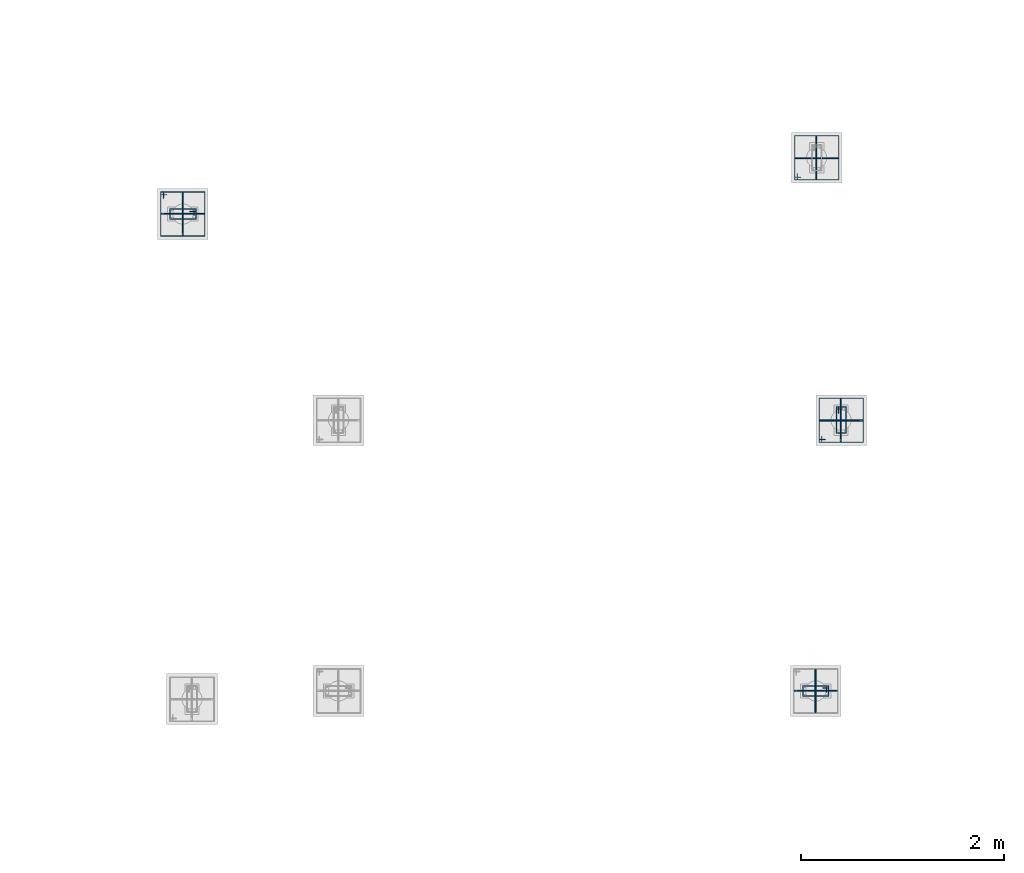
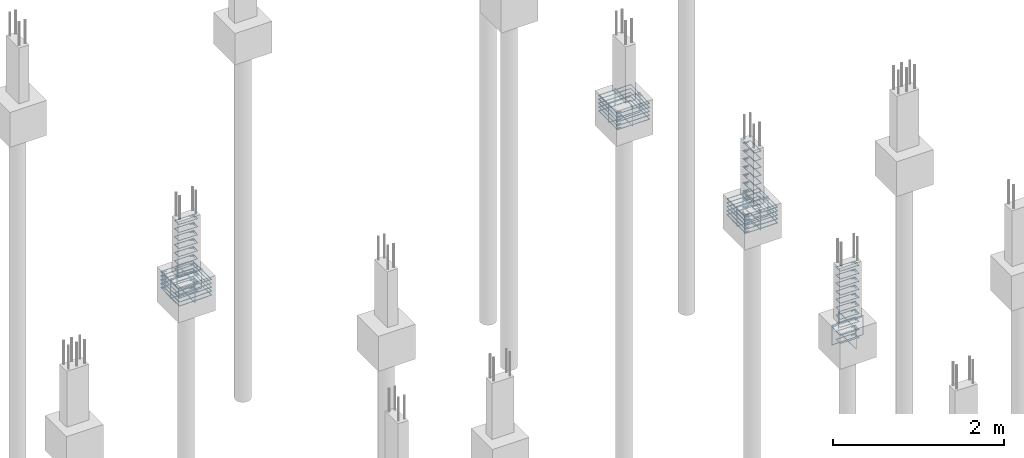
# One storey, part 110 of 119: 53 reinforcing bars.
"""IFC4 building model written with IfcOpenShell, lengths in centimetres."""

from ifc_helpers import new_model, entity, si_unit, derived_unit, frame, origin_with_axes, place, context, project, spatial, source, transform, mapped, element, save


model = new_model("IFC4")

# Units and contexts
model_context = context("Model", 3, precision=1e-05, world=origin_with_axes(), identifier="Body")
ifc_project = project(units=[si_unit("LENGTHUNIT", "METRE", prefix="CENTI"), si_unit("VOLUMEUNIT", "CUBIC_METRE"), si_unit("AREAUNIT", "SQUARE_METRE"), si_unit("POWERUNIT", "WATT"), si_unit("LUMINOUSFLUXUNIT", "LUMEN"), si_unit("ELECTRICCURRENTUNIT", "AMPERE"), si_unit("PRESSUREUNIT", "PASCAL", prefix="KILO"), si_unit("MASSUNIT", "GRAM", prefix="KILO"), si_unit("PLANEANGLEUNIT", "RADIAN"), derived_unit("VOLUMETRICFLOWRATEUNIT", [(si_unit("LENGTHUNIT", "METRE"), 3), (si_unit("TIMEUNIT", "SECOND"), -1)])], contexts=[model_context])

# Site, building, storey
site_placement = place(None, frame((-4000.0, 0.0, 0.0), z_axis=(0.0, 0.0, 1.0), x_axis=(1.0, 0.0, 0.0)))
site = spatial("IfcSite", under=ifc_project, at=site_placement, Name="PADRÃO")
building_placement = place(site_placement, frame((0.0, 0.0, -14.0)))
building = spatial("IfcBuilding", under=site, at=building_placement, Name="CRECHE PRÉ-ESCOLA TIPO 2")
storey_placement = place(building_placement, origin_with_axes())
storey = spatial("IfcBuildingStorey", under=building, at=storey_placement, Name="FUNDAÇÃO", CompositionType="ELEMENT", Elevation=-14.0)

# Reinforcing bars
shared_shape_1 = source(origin_with_axes(), model_context, "Body", "AdvancedSweptSolid", [
    entity("IfcSweptDiskSolid", entity("IfcCompositeCurve", [entity("IfcCompositeCurveSegment", "CONTINUOUS", True, entity("IfcPolyline", [entity("IfcCartesianPoint", [4.25, 21.75, 0.0]), entity("IfcCartesianPoint", [4.25, 27.75, 0.0])])), entity("IfcCompositeCurveSegment", "CONTINUOUS", True, entity("IfcPolyline", [entity("IfcCartesianPoint", [4.25, 27.75, 0.0]), entity("IfcCartesianPoint", [2.25, 27.75, 0.0])])), entity("IfcCompositeCurveSegment", "CONTINUOUS", True, entity("IfcPolyline", [entity("IfcCartesianPoint", [2.25, 27.75, 0.0]), entity("IfcCartesianPoint", [2.25, 2.25, 0.0])])), entity("IfcCompositeCurveSegment", "CONTINUOUS", True, entity("IfcPolyline", [entity("IfcCartesianPoint", [2.25, 2.25, 0.0]), entity("IfcCartesianPoint", [11.75, 2.25, 0.0])])), entity("IfcCompositeCurveSegment", "CONTINUOUS", True, entity("IfcPolyline", [entity("IfcCartesianPoint", [11.75, 2.25, 0.0]), entity("IfcCartesianPoint", [11.75, 27.75, -0.5])])), entity("IfcCompositeCurveSegment", "CONTINUOUS", True, entity("IfcPolyline", [entity("IfcCartesianPoint", [11.75, 27.75, -0.5]), entity("IfcCartesianPoint", [2.25, 27.75, -0.5])])), entity("IfcCompositeCurveSegment", "CONTINUOUS", True, entity("IfcPolyline", [entity("IfcCartesianPoint", [2.25, 27.75, -0.5]), entity("IfcCartesianPoint", [2.25, 25.75, -0.5])])), entity("IfcCompositeCurveSegment", "CONTINUOUS", True, entity("IfcPolyline", [entity("IfcCartesianPoint", [2.25, 25.75, -0.5]), entity("IfcCartesianPoint", [8.25, 25.75, -0.5])]))], False), 0.25),
])
for number, where, z_axis, x_axis, name in (
    (1, (2499.5, 3674.75, -40.25), (0.0, 0.0, 1.0), (0.0, -1.0, 0.0), "P34 - Estribo"),
    (2, (2499.5, 3674.75, -86.25), (0.0, 0.0, 1.0), (0.0, -1.0, 0.0), "P34 - Estribo"),
    (3, (2499.5, 3674.75, -74.75), (0.0, 0.0, 1.0), (0.0, -1.0, 0.0), "P34 - Estribo"),
    (4, (2499.5, 3674.75, -63.25), (0.0, 0.0, 1.0), (0.0, -1.0, 0.0), "P34 - Estribo"),
    (5, (2499.5, 3674.75, -51.75), (0.0, 0.0, 1.0), (0.0, -1.0, 0.0), "P34 - Estribo"),
    (6, (2499.5, 3674.75, -28.75), (0.0, 0.0, 1.0), (0.0, -1.0, 0.0), "P34 - Estribo"),
    (7, (2499.5, 3674.75, -17.25), (0.0, 0.0, 1.0), (0.0, -1.0, 0.0), "P34 - Estribo"),
    (8, (2499.5, 3674.75, -5.75), (0.0, 0.0, 1.0), (0.0, -1.0, 0.0), "P34 - Estribo"),
    (9, (2499.5, 3674.75, -109.25), (0.0, 0.0, 1.0), (0.0, -1.0, 0.0), "P34 - Estribo"),
    (10, (2499.5, 3674.75, -97.75), (0.0, 0.0, 1.0), (0.0, -1.0, 0.0), "P34 - Estribo"),
):
    element("IfcReinforcingBar", number, at=place(storey_placement, frame(where, z_axis=z_axis, x_axis=x_axis)), inside=storey, Name=name, BarLength=0.0, CrossSectionArea=1.9634954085e-05, NominalDiameter=0.5, PredefinedType="MAIN", context=model_context, shape_type="MappedRepresentation", body=[
        mapped(shared_shape_1, transform((0.0, 0.0, 0.0), scale=1.0)),
    ])
shared_shape_2 = source(origin_with_axes(), model_context, "Body", "AdvancedSweptSolid", [
    entity("IfcSweptDiskSolid", entity("IfcCompositeCurve", [entity("IfcCompositeCurveSegment", "CONTINUOUS", True, entity("IfcPolyline", [entity("IfcCartesianPoint", [2495.335, 3683.175, 0.0]), entity("IfcCartesianPoint", [2495.335, 3689.435, 0.0])])), entity("IfcCompositeCurveSegment", "CONTINUOUS", True, entity("IfcPolyline", [entity("IfcCartesianPoint", [2495.335, 3689.435, 0.0]), entity("IfcCartesianPoint", [2492.815, 3689.435, 0.0])])), entity("IfcCompositeCurveSegment", "CONTINUOUS", True, entity("IfcPolyline", [entity("IfcCartesianPoint", [2492.815, 3689.435, 0.0]), entity("IfcCartesianPoint", [2492.815, 3646.065, 0.0])])), entity("IfcCompositeCurveSegment", "CONTINUOUS", True, entity("IfcPolyline", [entity("IfcCartesianPoint", [2492.815, 3646.065, 0.0]), entity("IfcCartesianPoint", [2536.185, 3646.065, 0.63])])), entity("IfcCompositeCurveSegment", "CONTINUOUS", True, entity("IfcPolyline", [entity("IfcCartesianPoint", [2536.185, 3646.065, 0.63]), entity("IfcCartesianPoint", [2536.185, 3689.435, 0.63])])), entity("IfcCompositeCurveSegment", "CONTINUOUS", True, entity("IfcPolyline", [entity("IfcCartesianPoint", [2536.185, 3689.435, 0.63]), entity("IfcCartesianPoint", [2492.815, 3689.435, 0.63])])), entity("IfcCompositeCurveSegment", "CONTINUOUS", True, entity("IfcPolyline", [entity("IfcCartesianPoint", [2492.815, 3689.435, 0.63]), entity("IfcCartesianPoint", [2492.815, 3686.915, 0.63])])), entity("IfcCompositeCurveSegment", "CONTINUOUS", True, entity("IfcPolyline", [entity("IfcCartesianPoint", [2492.815, 3686.915, 0.63]), entity("IfcCartesianPoint", [2499.075, 3686.915, 0.63])]))], False), 0.315),
])
for number, where, z_axis, x_axis, name in (
    (11, (0.0, 0.0, -109.175), (0.0, 0.0, 1.0), (1.0, 0.0, 0.0), "P34 - Blocos (estribos)"),
    (12, (0.0, 0.0, -103.525), (0.0, 0.0, 1.0), (1.0, 0.0, 0.0), "P34 - Blocos (estribos)"),
    (13, (0.0, 0.0, -97.875), (0.0, 0.0, 1.0), (1.0, 0.0, 0.0), "P34 - Blocos (estribos)"),
    (14, (0.0, 0.0, -86.575), (0.0, 0.0, 1.0), (1.0, 0.0, 0.0), "P34 - Blocos (estribos)"),
    (15, (0.0, 0.0, -92.225), (0.0, 0.0, 1.0), (1.0, 0.0, 0.0), "P34 - Blocos (estribos)"),
):
    element("IfcReinforcingBar", number, at=place(storey_placement, frame(where, z_axis=z_axis, x_axis=x_axis)), inside=storey, Name=name, BarLength=0.0, CrossSectionArea=3.1172453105e-05, NominalDiameter=0.63, PredefinedType="MAIN", context=model_context, shape_type="MappedRepresentation", body=[
        mapped(shared_shape_2, transform((0.0, 0.0, 0.0), scale=1.0)),
    ])
shared_shape_3 = source(origin_with_axes(), model_context, "Body", "AdvancedSweptSolid", [
    entity("IfcSweptDiskSolid", entity("IfcCompositeCurve", [entity("IfcCompositeCurveSegment", "CONTINUOUS", True, entity("IfcPolyline", [entity("IfcCartesianPoint", [-15.12, -12.0, 0.0]), entity("IfcCartesianPoint", [-21.12, -12.0, 0.0])])), entity("IfcCompositeCurveSegment", "CONTINUOUS", True, entity("IfcPolyline", [entity("IfcCartesianPoint", [-21.12, -12.0, 0.0]), entity("IfcCartesianPoint", [-21.12, -14.0, 0.0])])), entity("IfcCompositeCurveSegment", "CONTINUOUS", True, entity("IfcPolyline", [entity("IfcCartesianPoint", [-21.12, -14.0, 0.0]), entity("IfcCartesianPoint", [21.12, -14.0, 0.0])])), entity("IfcCompositeCurveSegment", "CONTINUOUS", True, entity("IfcPolyline", [entity("IfcCartesianPoint", [21.12, -14.0, 0.0]), entity("IfcCartesianPoint", [21.12, 14.0, 0.5])])), entity("IfcCompositeCurveSegment", "CONTINUOUS", True, entity("IfcPolyline", [entity("IfcCartesianPoint", [21.12, 14.0, 0.5]), entity("IfcCartesianPoint", [-21.12, 14.0, 0.5])])), entity("IfcCompositeCurveSegment", "CONTINUOUS", True, entity("IfcPolyline", [entity("IfcCartesianPoint", [-21.12, 14.0, 0.5]), entity("IfcCartesianPoint", [-21.12, -14.0, 0.5])])), entity("IfcCompositeCurveSegment", "CONTINUOUS", True, entity("IfcPolyline", [entity("IfcCartesianPoint", [-21.12, -14.0, 0.5]), entity("IfcCartesianPoint", [-19.12, -14.0, 0.5])])), entity("IfcCompositeCurveSegment", "CONTINUOUS", True, entity("IfcPolyline", [entity("IfcCartesianPoint", [-19.12, -14.0, 0.5]), entity("IfcCartesianPoint", [-19.12, -8.0, 0.5])]))], False), 0.25),
])
reinforcing_bar_1_placement = place(storey_placement, frame((2514.5, 3667.75, -97.75), z_axis=(0.0, 1.0, 0.0), x_axis=(1.0, 0.0, 0.0)))
element("IfcReinforcingBar", 16, at=reinforcing_bar_1_placement, inside=storey, Name="P34 - Blocos (estribos)", BarLength=0.0, CrossSectionArea=1.9634954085e-05, NominalDiameter=0.5, PredefinedType="MAIN", context=model_context, shape_type="MappedRepresentation", body=[
    mapped(shared_shape_3, transform((0.0, 0.0, 0.0), scale=1.0)),
])
shared_shape_4 = source(origin_with_axes(), model_context, "Body", "AdvancedSweptSolid", [
    entity("IfcSweptDiskSolid", entity("IfcCompositeCurve", [entity("IfcCompositeCurveSegment", "CONTINUOUS", True, entity("IfcPolyline", [entity("IfcCartesianPoint", [-15.12, -12.0, 0.0]), entity("IfcCartesianPoint", [-21.12, -12.0, 0.0])])), entity("IfcCompositeCurveSegment", "CONTINUOUS", True, entity("IfcPolyline", [entity("IfcCartesianPoint", [-21.12, -12.0, 0.0]), entity("IfcCartesianPoint", [-21.12, -14.0, 0.0])])), entity("IfcCompositeCurveSegment", "CONTINUOUS", True, entity("IfcPolyline", [entity("IfcCartesianPoint", [-21.12, -14.0, 0.0]), entity("IfcCartesianPoint", [21.12, -14.0, 0.0])])), entity("IfcCompositeCurveSegment", "CONTINUOUS", True, entity("IfcPolyline", [entity("IfcCartesianPoint", [21.12, -14.0, 0.0]), entity("IfcCartesianPoint", [21.12, 14.0, 0.5])])), entity("IfcCompositeCurveSegment", "CONTINUOUS", True, entity("IfcPolyline", [entity("IfcCartesianPoint", [21.12, 14.0, 0.5]), entity("IfcCartesianPoint", [-21.12, 14.0, 0.5])])), entity("IfcCompositeCurveSegment", "CONTINUOUS", True, entity("IfcPolyline", [entity("IfcCartesianPoint", [-21.12, 14.0, 0.5]), entity("IfcCartesianPoint", [-21.12, -14.0, 0.5])])), entity("IfcCompositeCurveSegment", "CONTINUOUS", True, entity("IfcPolyline", [entity("IfcCartesianPoint", [-21.12, -14.0, 0.5]), entity("IfcCartesianPoint", [-19.12, -14.0, 0.5])])), entity("IfcCompositeCurveSegment", "CONTINUOUS", True, entity("IfcPolyline", [entity("IfcCartesianPoint", [-19.12, -14.0, 0.5]), entity("IfcCartesianPoint", [-19.12, -8.0, 0.5])]))], False), 0.25),
])
reinforcing_bar_2_placement = place(storey_placement, frame((2514.5, 3667.75, -97.75), z_axis=(-1.0, 0.0, 0.0), x_axis=(0.0, 1.0, 0.0)))
element("IfcReinforcingBar", 17, at=reinforcing_bar_2_placement, inside=storey, Name="P34 - Blocos (estribos)", BarLength=0.0, CrossSectionArea=1.9634954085e-05, NominalDiameter=0.5, PredefinedType="MAIN", context=model_context, shape_type="MappedRepresentation", body=[
    mapped(shared_shape_4, transform((0.0, 0.0, 0.0), scale=1.0)),
])
shared_shape_5 = source(origin_with_axes(), model_context, "Body", "AdvancedSweptSolid", [
    entity("IfcSweptDiskSolid", entity("IfcCompositeCurve", [entity("IfcCompositeCurveSegment", "CONTINUOUS", True, entity("IfcPolyline", [entity("IfcCartesianPoint", [4.25, 21.75, 0.0]), entity("IfcCartesianPoint", [4.25, 27.75, 0.0])])), entity("IfcCompositeCurveSegment", "CONTINUOUS", True, entity("IfcPolyline", [entity("IfcCartesianPoint", [4.25, 27.75, 0.0]), entity("IfcCartesianPoint", [2.25, 27.75, 0.0])])), entity("IfcCompositeCurveSegment", "CONTINUOUS", True, entity("IfcPolyline", [entity("IfcCartesianPoint", [2.25, 27.75, 0.0]), entity("IfcCartesianPoint", [2.25, 2.25, 0.0])])), entity("IfcCompositeCurveSegment", "CONTINUOUS", True, entity("IfcPolyline", [entity("IfcCartesianPoint", [2.25, 2.25, 0.0]), entity("IfcCartesianPoint", [11.75, 2.25, 0.0])])), entity("IfcCompositeCurveSegment", "CONTINUOUS", True, entity("IfcPolyline", [entity("IfcCartesianPoint", [11.75, 2.25, 0.0]), entity("IfcCartesianPoint", [11.75, 27.75, -0.5])])), entity("IfcCompositeCurveSegment", "CONTINUOUS", True, entity("IfcPolyline", [entity("IfcCartesianPoint", [11.75, 27.75, -0.5]), entity("IfcCartesianPoint", [2.25, 27.75, -0.5])])), entity("IfcCompositeCurveSegment", "CONTINUOUS", True, entity("IfcPolyline", [entity("IfcCartesianPoint", [2.25, 27.75, -0.5]), entity("IfcCartesianPoint", [2.25, 25.75, -0.5])])), entity("IfcCompositeCurveSegment", "CONTINUOUS", True, entity("IfcPolyline", [entity("IfcCartesianPoint", [2.25, 25.75, -0.5]), entity("IfcCartesianPoint", [8.25, 25.75, -0.5])]))], False), 0.25),
])
for number, where, z_axis, x_axis, name in (
    (18, (3156.5, 3449.58, -63.25), (0.0, 0.0, 1.0), (1.0, 0.0, 0.0), "P44 - Estribo"),
    (19, (3156.5, 3449.58, -86.25), (0.0, 0.0, 1.0), (1.0, 0.0, 0.0), "P44 - Estribo"),
    (20, (3156.5, 3449.58, -97.75), (0.0, 0.0, 1.0), (1.0, 0.0, 0.0), "P44 - Estribo"),
    (21, (3156.5, 3449.58, -51.75), (0.0, 0.0, 1.0), (1.0, 0.0, 0.0), "P44 - Estribo"),
    (22, (3156.5, 3449.58, -109.25), (0.0, 0.0, 1.0), (1.0, 0.0, 0.0), "P44 - Estribo"),
    (23, (3156.5, 3449.58, -40.25), (0.0, 0.0, 1.0), (1.0, 0.0, 0.0), "P44 - Estribo"),
    (24, (3156.5, 3449.58, -28.75), (0.0, 0.0, 1.0), (1.0, 0.0, 0.0), "P44 - Estribo"),
    (25, (3156.5, 3449.58, -17.25), (0.0, 0.0, 1.0), (1.0, 0.0, 0.0), "P44 - Estribo"),
    (26, (3156.5, 3449.58, -5.75), (0.0, 0.0, 1.0), (1.0, 0.0, 0.0), "P44 - Estribo"),
    (27, (3156.5, 3449.58, -74.75), (0.0, 0.0, 1.0), (1.0, 0.0, 0.0), "P44 - Estribo"),
):
    element("IfcReinforcingBar", number, at=place(storey_placement, frame(where, z_axis=z_axis, x_axis=x_axis)), inside=storey, Name=name, BarLength=0.0, CrossSectionArea=1.9634954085e-05, NominalDiameter=0.5, PredefinedType="MAIN", context=model_context, shape_type="MappedRepresentation", body=[
        mapped(shared_shape_5, transform((0.0, 0.0, 0.0), scale=1.0)),
    ])
shared_shape_6 = source(origin_with_axes(), model_context, "Body", "AdvancedSweptSolid", [
    entity("IfcSweptDiskSolid", entity("IfcCompositeCurve", [entity("IfcCompositeCurveSegment", "CONTINUOUS", True, entity("IfcPolyline", [entity("IfcCartesianPoint", [3148.075, 3445.415, 0.0]), entity("IfcCartesianPoint", [3141.815, 3445.415, 0.0])])), entity("IfcCompositeCurveSegment", "CONTINUOUS", True, entity("IfcPolyline", [entity("IfcCartesianPoint", [3141.815, 3445.415, 0.0]), entity("IfcCartesianPoint", [3141.815, 3442.895, 0.0])])), entity("IfcCompositeCurveSegment", "CONTINUOUS", True, entity("IfcPolyline", [entity("IfcCartesianPoint", [3141.815, 3442.895, 0.0]), entity("IfcCartesianPoint", [3185.185, 3442.895, 0.0])])), entity("IfcCompositeCurveSegment", "CONTINUOUS", True, entity("IfcPolyline", [entity("IfcCartesianPoint", [3185.185, 3442.895, 0.0]), entity("IfcCartesianPoint", [3185.185, 3486.265, 0.63])])), entity("IfcCompositeCurveSegment", "CONTINUOUS", True, entity("IfcPolyline", [entity("IfcCartesianPoint", [3185.185, 3486.265, 0.63]), entity("IfcCartesianPoint", [3141.815, 3486.265, 0.63])])), entity("IfcCompositeCurveSegment", "CONTINUOUS", True, entity("IfcPolyline", [entity("IfcCartesianPoint", [3141.815, 3486.265, 0.63]), entity("IfcCartesianPoint", [3141.815, 3442.895, 0.63])])), entity("IfcCompositeCurveSegment", "CONTINUOUS", True, entity("IfcPolyline", [entity("IfcCartesianPoint", [3141.815, 3442.895, 0.63]), entity("IfcCartesianPoint", [3144.335, 3442.895, 0.63])])), entity("IfcCompositeCurveSegment", "CONTINUOUS", True, entity("IfcPolyline", [entity("IfcCartesianPoint", [3144.335, 3442.895, 0.63]), entity("IfcCartesianPoint", [3144.335, 3449.155, 0.63])]))], False), 0.315),
])
for number, where, z_axis, x_axis, name in (
    (28, (0.0, 0.0, -86.575), (0.0, 0.0, 1.0), (1.0, 0.0, 0.0), "P44 - Blocos (estribos)"),
    (29, (0.0, 0.0, -92.225), (0.0, 0.0, 1.0), (1.0, 0.0, 0.0), "P44 - Blocos (estribos)"),
    (30, (0.0, 0.0, -97.875), (0.0, 0.0, 1.0), (1.0, 0.0, 0.0), "P44 - Blocos (estribos)"),
    (31, (0.0, 0.0, -103.525), (0.0, 0.0, 1.0), (1.0, 0.0, 0.0), "P44 - Blocos (estribos)"),
    (32, (0.0, 0.0, -109.175), (0.0, 0.0, 1.0), (1.0, 0.0, 0.0), "P44 - Blocos (estribos)"),
):
    element("IfcReinforcingBar", number, at=place(storey_placement, frame(where, z_axis=z_axis, x_axis=x_axis)), inside=storey, Name=name, BarLength=0.0, CrossSectionArea=3.1172453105e-05, NominalDiameter=0.63, PredefinedType="MAIN", context=model_context, shape_type="MappedRepresentation", body=[
        mapped(shared_shape_6, transform((0.0, 0.0, 0.0), scale=1.0)),
    ])
shared_shape_7 = source(origin_with_axes(), model_context, "Body", "AdvancedSweptSolid", [
    entity("IfcSweptDiskSolid", entity("IfcCompositeCurve", [entity("IfcCompositeCurveSegment", "CONTINUOUS", True, entity("IfcPolyline", [entity("IfcCartesianPoint", [-14.795, -11.35, 0.0]), entity("IfcCartesianPoint", [-21.055, -11.35, 0.0])])), entity("IfcCompositeCurveSegment", "CONTINUOUS", True, entity("IfcPolyline", [entity("IfcCartesianPoint", [-21.055, -11.35, 0.0]), entity("IfcCartesianPoint", [-21.055, -13.87, 0.0])])), entity("IfcCompositeCurveSegment", "CONTINUOUS", True, entity("IfcPolyline", [entity("IfcCartesianPoint", [-21.055, -13.87, 0.0]), entity("IfcCartesianPoint", [21.055, -13.87, 0.0])])), entity("IfcCompositeCurveSegment", "CONTINUOUS", True, entity("IfcPolyline", [entity("IfcCartesianPoint", [21.055, -13.87, 0.0]), entity("IfcCartesianPoint", [21.055, 13.87, 0.63])])), entity("IfcCompositeCurveSegment", "CONTINUOUS", True, entity("IfcPolyline", [entity("IfcCartesianPoint", [21.055, 13.87, 0.63]), entity("IfcCartesianPoint", [-21.055, 13.87, 0.63])])), entity("IfcCompositeCurveSegment", "CONTINUOUS", True, entity("IfcPolyline", [entity("IfcCartesianPoint", [-21.055, 13.87, 0.63]), entity("IfcCartesianPoint", [-21.055, -13.87, 0.63])])), entity("IfcCompositeCurveSegment", "CONTINUOUS", True, entity("IfcPolyline", [entity("IfcCartesianPoint", [-21.055, -13.87, 0.63]), entity("IfcCartesianPoint", [-18.535, -13.87, 0.63])])), entity("IfcCompositeCurveSegment", "CONTINUOUS", True, entity("IfcPolyline", [entity("IfcCartesianPoint", [-18.535, -13.87, 0.63]), entity("IfcCartesianPoint", [-18.535, -7.61, 0.63])]))], False), 0.315),
])
reinforcing_bar_3_placement = place(storey_placement, frame((3163.5, 3464.58, -97.815), z_axis=(-1.0, 0.0, 0.0), x_axis=(0.0, 1.0, 0.0)))
element("IfcReinforcingBar", 33, at=reinforcing_bar_3_placement, inside=storey, Name="P44 - Blocos (estribos)", BarLength=0.0, CrossSectionArea=3.1172453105e-05, NominalDiameter=0.63, PredefinedType="MAIN", context=model_context, shape_type="MappedRepresentation", body=[
    mapped(shared_shape_7, transform((0.0, 0.0, 0.0), scale=1.0)),
])
shared_shape_8 = source(origin_with_axes(), model_context, "Body", "AdvancedSweptSolid", [
    entity("IfcSweptDiskSolid", entity("IfcCompositeCurve", [entity("IfcCompositeCurveSegment", "CONTINUOUS", True, entity("IfcPolyline", [entity("IfcCartesianPoint", [-14.795, -11.35, 0.0]), entity("IfcCartesianPoint", [-21.055, -11.35, 0.0])])), entity("IfcCompositeCurveSegment", "CONTINUOUS", True, entity("IfcPolyline", [entity("IfcCartesianPoint", [-21.055, -11.35, 0.0]), entity("IfcCartesianPoint", [-21.055, -13.87, 0.0])])), entity("IfcCompositeCurveSegment", "CONTINUOUS", True, entity("IfcPolyline", [entity("IfcCartesianPoint", [-21.055, -13.87, 0.0]), entity("IfcCartesianPoint", [21.055, -13.87, 0.0])])), entity("IfcCompositeCurveSegment", "CONTINUOUS", True, entity("IfcPolyline", [entity("IfcCartesianPoint", [21.055, -13.87, 0.0]), entity("IfcCartesianPoint", [21.055, 13.87, 0.63])])), entity("IfcCompositeCurveSegment", "CONTINUOUS", True, entity("IfcPolyline", [entity("IfcCartesianPoint", [21.055, 13.87, 0.63]), entity("IfcCartesianPoint", [-21.055, 13.87, 0.63])])), entity("IfcCompositeCurveSegment", "CONTINUOUS", True, entity("IfcPolyline", [entity("IfcCartesianPoint", [-21.055, 13.87, 0.63]), entity("IfcCartesianPoint", [-21.055, -13.87, 0.63])])), entity("IfcCompositeCurveSegment", "CONTINUOUS", True, entity("IfcPolyline", [entity("IfcCartesianPoint", [-21.055, -13.87, 0.63]), entity("IfcCartesianPoint", [-18.535, -13.87, 0.63])])), entity("IfcCompositeCurveSegment", "CONTINUOUS", True, entity("IfcPolyline", [entity("IfcCartesianPoint", [-18.535, -13.87, 0.63]), entity("IfcCartesianPoint", [-18.535, -7.61, 0.63])]))], False), 0.315),
])
reinforcing_bar_4_placement = place(storey_placement, frame((3163.5, 3464.58, -97.815), z_axis=(0.0, -1.0, 0.0), x_axis=(-1.0, 0.0, 0.0)))
element("IfcReinforcingBar", 34, at=reinforcing_bar_4_placement, inside=storey, Name="P44 - Blocos (estribos)", BarLength=0.0, CrossSectionArea=3.1172453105e-05, NominalDiameter=0.63, PredefinedType="MAIN", context=model_context, shape_type="MappedRepresentation", body=[
    mapped(shared_shape_8, transform((0.0, 0.0, 0.0), scale=1.0)),
])
shared_shape_9 = source(origin_with_axes(), model_context, "Body", "AdvancedSweptSolid", [
    entity("IfcSweptDiskSolid", entity("IfcCompositeCurve", [entity("IfcCompositeCurveSegment", "CONTINUOUS", True, entity("IfcPolyline", [entity("IfcCartesianPoint", [4.25, 21.75, 0.0]), entity("IfcCartesianPoint", [4.25, 27.75, 0.0])])), entity("IfcCompositeCurveSegment", "CONTINUOUS", True, entity("IfcPolyline", [entity("IfcCartesianPoint", [4.25, 27.75, 0.0]), entity("IfcCartesianPoint", [2.25, 27.75, 0.0])])), entity("IfcCompositeCurveSegment", "CONTINUOUS", True, entity("IfcPolyline", [entity("IfcCartesianPoint", [2.25, 27.75, 0.0]), entity("IfcCartesianPoint", [2.25, 2.25, 0.0])])), entity("IfcCompositeCurveSegment", "CONTINUOUS", True, entity("IfcPolyline", [entity("IfcCartesianPoint", [2.25, 2.25, 0.0]), entity("IfcCartesianPoint", [11.75, 2.25, 0.0])])), entity("IfcCompositeCurveSegment", "CONTINUOUS", True, entity("IfcPolyline", [entity("IfcCartesianPoint", [11.75, 2.25, 0.0]), entity("IfcCartesianPoint", [11.75, 27.75, -0.5])])), entity("IfcCompositeCurveSegment", "CONTINUOUS", True, entity("IfcPolyline", [entity("IfcCartesianPoint", [11.75, 27.75, -0.5]), entity("IfcCartesianPoint", [2.25, 27.75, -0.5])])), entity("IfcCompositeCurveSegment", "CONTINUOUS", True, entity("IfcPolyline", [entity("IfcCartesianPoint", [2.25, 27.75, -0.5]), entity("IfcCartesianPoint", [2.25, 25.75, -0.5])])), entity("IfcCompositeCurveSegment", "CONTINUOUS", True, entity("IfcPolyline", [entity("IfcCartesianPoint", [2.25, 25.75, -0.5]), entity("IfcCartesianPoint", [8.25, 25.75, -0.5])]))], False), 0.25),
])
for number, where, z_axis, x_axis, name in (
    (35, (3123.5, 3204.52, -28.75), (0.0, 0.0, 1.0), (0.0, -1.0, 0.0), "P55 - Estribo"),
    (36, (3123.5, 3204.52, -17.25), (0.0, 0.0, 1.0), (0.0, -1.0, 0.0), "P55 - Estribo"),
    (37, (3123.5, 3204.52, -109.25), (0.0, 0.0, 1.0), (0.0, -1.0, 0.0), "P55 - Estribo"),
    (38, (3123.5, 3204.52, -5.75), (0.0, 0.0, 1.0), (0.0, -1.0, 0.0), "P55 - Estribo"),
    (39, (3123.5, 3204.52, -97.75), (0.0, 0.0, 1.0), (0.0, -1.0, 0.0), "P55 - Estribo"),
    (40, (3123.5, 3204.52, -86.25), (0.0, 0.0, 1.0), (0.0, -1.0, 0.0), "P55 - Estribo"),
    (41, (3123.5, 3204.52, -74.75), (0.0, 0.0, 1.0), (0.0, -1.0, 0.0), "P55 - Estribo"),
    (42, (3123.5, 3204.52, -63.25), (0.0, 0.0, 1.0), (0.0, -1.0, 0.0), "P55 - Estribo"),
    (43, (3123.5, 3204.52, -51.75), (0.0, 0.0, 1.0), (0.0, -1.0, 0.0), "P55 - Estribo"),
    (44, (3123.5, 3204.52, -40.25), (0.0, 0.0, 1.0), (0.0, -1.0, 0.0), "P55 - Estribo"),
):
    element("IfcReinforcingBar", number, at=place(storey_placement, frame(where, z_axis=z_axis, x_axis=x_axis)), inside=storey, Name=name, BarLength=0.0, CrossSectionArea=1.9634954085e-05, NominalDiameter=0.5, PredefinedType="MAIN", context=model_context, shape_type="MappedRepresentation", body=[
        mapped(shared_shape_9, transform((0.0, 0.0, 0.0), scale=1.0)),
    ])
shared_shape_10 = source(origin_with_axes(), model_context, "Body", "AdvancedSweptSolid", [
    entity("IfcSweptDiskSolid", entity("IfcCompositeCurve", [entity("IfcCompositeCurveSegment", "CONTINUOUS", True, entity("IfcPolyline", [entity("IfcCartesianPoint", [-15.12, -12.0, 0.0]), entity("IfcCartesianPoint", [-21.12, -12.0, 0.0])])), entity("IfcCompositeCurveSegment", "CONTINUOUS", True, entity("IfcPolyline", [entity("IfcCartesianPoint", [-21.12, -12.0, 0.0]), entity("IfcCartesianPoint", [-21.12, -14.0, 0.0])])), entity("IfcCompositeCurveSegment", "CONTINUOUS", True, entity("IfcPolyline", [entity("IfcCartesianPoint", [-21.12, -14.0, 0.0]), entity("IfcCartesianPoint", [21.12, -14.0, 0.0])])), entity("IfcCompositeCurveSegment", "CONTINUOUS", True, entity("IfcPolyline", [entity("IfcCartesianPoint", [21.12, -14.0, 0.0]), entity("IfcCartesianPoint", [21.12, 14.0, 0.5])])), entity("IfcCompositeCurveSegment", "CONTINUOUS", True, entity("IfcPolyline", [entity("IfcCartesianPoint", [21.12, 14.0, 0.5]), entity("IfcCartesianPoint", [-21.12, 14.0, 0.5])])), entity("IfcCompositeCurveSegment", "CONTINUOUS", True, entity("IfcPolyline", [entity("IfcCartesianPoint", [-21.12, 14.0, 0.5]), entity("IfcCartesianPoint", [-21.12, -14.0, 0.5])])), entity("IfcCompositeCurveSegment", "CONTINUOUS", True, entity("IfcPolyline", [entity("IfcCartesianPoint", [-21.12, -14.0, 0.5]), entity("IfcCartesianPoint", [-19.12, -14.0, 0.5])])), entity("IfcCompositeCurveSegment", "CONTINUOUS", True, entity("IfcPolyline", [entity("IfcCartesianPoint", [-19.12, -14.0, 0.5]), entity("IfcCartesianPoint", [-19.12, -8.0, 0.5])]))], False), 0.25),
])
reinforcing_bar_5_placement = place(storey_placement, frame((3138.5, 3197.52, -97.75), z_axis=(0.0, 1.0, 0.0), x_axis=(1.0, 0.0, 0.0)))
element("IfcReinforcingBar", 45, at=reinforcing_bar_5_placement, inside=storey, Name="P55 - Blocos (estribos)", BarLength=0.0, CrossSectionArea=1.9634954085e-05, NominalDiameter=0.5, PredefinedType="MAIN", context=model_context, shape_type="MappedRepresentation", body=[
    mapped(shared_shape_10, transform((0.0, 0.0, 0.0), scale=1.0)),
])
shared_shape_11 = source(origin_with_axes(), model_context, "Body", "AdvancedSweptSolid", [
    entity("IfcSweptDiskSolid", entity("IfcCompositeCurve", [entity("IfcCompositeCurveSegment", "CONTINUOUS", True, entity("IfcPolyline", [entity("IfcCartesianPoint", [-15.12, -12.0, 0.0]), entity("IfcCartesianPoint", [-21.12, -12.0, 0.0])])), entity("IfcCompositeCurveSegment", "CONTINUOUS", True, entity("IfcPolyline", [entity("IfcCartesianPoint", [-21.12, -12.0, 0.0]), entity("IfcCartesianPoint", [-21.12, -14.0, 0.0])])), entity("IfcCompositeCurveSegment", "CONTINUOUS", True, entity("IfcPolyline", [entity("IfcCartesianPoint", [-21.12, -14.0, 0.0]), entity("IfcCartesianPoint", [21.12, -14.0, 0.0])])), entity("IfcCompositeCurveSegment", "CONTINUOUS", True, entity("IfcPolyline", [entity("IfcCartesianPoint", [21.12, -14.0, 0.0]), entity("IfcCartesianPoint", [21.12, 14.0, 0.5])])), entity("IfcCompositeCurveSegment", "CONTINUOUS", True, entity("IfcPolyline", [entity("IfcCartesianPoint", [21.12, 14.0, 0.5]), entity("IfcCartesianPoint", [-21.12, 14.0, 0.5])])), entity("IfcCompositeCurveSegment", "CONTINUOUS", True, entity("IfcPolyline", [entity("IfcCartesianPoint", [-21.12, 14.0, 0.5]), entity("IfcCartesianPoint", [-21.12, -14.0, 0.5])])), entity("IfcCompositeCurveSegment", "CONTINUOUS", True, entity("IfcPolyline", [entity("IfcCartesianPoint", [-21.12, -14.0, 0.5]), entity("IfcCartesianPoint", [-19.12, -14.0, 0.5])])), entity("IfcCompositeCurveSegment", "CONTINUOUS", True, entity("IfcPolyline", [entity("IfcCartesianPoint", [-19.12, -14.0, 0.5]), entity("IfcCartesianPoint", [-19.12, -8.0, 0.5])]))], False), 0.25),
])
reinforcing_bar_6_placement = place(storey_placement, frame((3138.5, 3197.52, -97.75), z_axis=(-1.0, 0.0, 0.0), x_axis=(0.0, 1.0, 0.0)))
element("IfcReinforcingBar", 46, at=reinforcing_bar_6_placement, inside=storey, Name="P55 - Blocos (estribos)", BarLength=0.0, CrossSectionArea=1.9634954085e-05, NominalDiameter=0.5, PredefinedType="MAIN", context=model_context, shape_type="MappedRepresentation", body=[
    mapped(shared_shape_11, transform((0.0, 0.0, 0.0), scale=1.0)),
])
shared_shape_12 = source(origin_with_axes(), model_context, "Body", "AdvancedSweptSolid", [
    entity("IfcSweptDiskSolid", entity("IfcCompositeCurve", [entity("IfcCompositeCurveSegment", "CONTINUOUS", True, entity("IfcPolyline", [entity("IfcCartesianPoint", [3124.005, 3704.095, 0.0]), entity("IfcCartesianPoint", [3117.745, 3704.095, 0.0])])), entity("IfcCompositeCurveSegment", "CONTINUOUS", True, entity("IfcPolyline", [entity("IfcCartesianPoint", [3117.745, 3704.095, 0.0]), entity("IfcCartesianPoint", [3117.745, 3701.575, 0.0])])), entity("IfcCompositeCurveSegment", "CONTINUOUS", True, entity("IfcPolyline", [entity("IfcCartesianPoint", [3117.745, 3701.575, 0.0]), entity("IfcCartesianPoint", [3161.115, 3701.575, 0.0])])), entity("IfcCompositeCurveSegment", "CONTINUOUS", True, entity("IfcPolyline", [entity("IfcCartesianPoint", [3161.115, 3701.575, 0.0]), entity("IfcCartesianPoint", [3161.115, 3744.945, 0.63])])), entity("IfcCompositeCurveSegment", "CONTINUOUS", True, entity("IfcPolyline", [entity("IfcCartesianPoint", [3161.115, 3744.945, 0.63]), entity("IfcCartesianPoint", [3117.745, 3744.945, 0.63])])), entity("IfcCompositeCurveSegment", "CONTINUOUS", True, entity("IfcPolyline", [entity("IfcCartesianPoint", [3117.745, 3744.945, 0.63]), entity("IfcCartesianPoint", [3117.745, 3701.575, 0.63])])), entity("IfcCompositeCurveSegment", "CONTINUOUS", True, entity("IfcPolyline", [entity("IfcCartesianPoint", [3117.745, 3701.575, 0.63]), entity("IfcCartesianPoint", [3120.265, 3701.575, 0.63])])), entity("IfcCompositeCurveSegment", "CONTINUOUS", True, entity("IfcPolyline", [entity("IfcCartesianPoint", [3120.265, 3701.575, 0.63]), entity("IfcCartesianPoint", [3120.265, 3707.835, 0.63])]))], False), 0.315),
])
for number, where, z_axis, x_axis, name in (
    (47, (0.0, 0.0, -109.175), (0.0, 0.0, 1.0), (1.0, 0.0, 0.0), "P32 - Blocos (estribos)"),
    (48, (0.0, 0.0, -103.525), (0.0, 0.0, 1.0), (1.0, 0.0, 0.0), "P32 - Blocos (estribos)"),
    (49, (0.0, 0.0, -92.225), (0.0, 0.0, 1.0), (1.0, 0.0, 0.0), "P32 - Blocos (estribos)"),
    (50, (0.0, 0.0, -86.575), (0.0, 0.0, 1.0), (1.0, 0.0, 0.0), "P32 - Blocos (estribos)"),
    (51, (0.0, 0.0, -97.875), (0.0, 0.0, 1.0), (1.0, 0.0, 0.0), "P32 - Blocos (estribos)"),
):
    element("IfcReinforcingBar", number, at=place(storey_placement, frame(where, z_axis=z_axis, x_axis=x_axis)), inside=storey, Name=name, BarLength=0.0, CrossSectionArea=3.1172453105e-05, NominalDiameter=0.63, PredefinedType="MAIN", context=model_context, shape_type="MappedRepresentation", body=[
        mapped(shared_shape_12, transform((0.0, 0.0, 0.0), scale=1.0)),
    ])
shared_shape_13 = source(origin_with_axes(), model_context, "Body", "AdvancedSweptSolid", [
    entity("IfcSweptDiskSolid", entity("IfcCompositeCurve", [entity("IfcCompositeCurveSegment", "CONTINUOUS", True, entity("IfcPolyline", [entity("IfcCartesianPoint", [-15.12, -12.0, 0.0]), entity("IfcCartesianPoint", [-21.12, -12.0, 0.0])])), entity("IfcCompositeCurveSegment", "CONTINUOUS", True, entity("IfcPolyline", [entity("IfcCartesianPoint", [-21.12, -12.0, 0.0]), entity("IfcCartesianPoint", [-21.12, -14.0, 0.0])])), entity("IfcCompositeCurveSegment", "CONTINUOUS", True, entity("IfcPolyline", [entity("IfcCartesianPoint", [-21.12, -14.0, 0.0]), entity("IfcCartesianPoint", [21.12, -14.0, 0.0])])), entity("IfcCompositeCurveSegment", "CONTINUOUS", True, entity("IfcPolyline", [entity("IfcCartesianPoint", [21.12, -14.0, 0.0]), entity("IfcCartesianPoint", [21.12, 14.0, 0.5])])), entity("IfcCompositeCurveSegment", "CONTINUOUS", True, entity("IfcPolyline", [entity("IfcCartesianPoint", [21.12, 14.0, 0.5]), entity("IfcCartesianPoint", [-21.12, 14.0, 0.5])])), entity("IfcCompositeCurveSegment", "CONTINUOUS", True, entity("IfcPolyline", [entity("IfcCartesianPoint", [-21.12, 14.0, 0.5]), entity("IfcCartesianPoint", [-21.12, -14.0, 0.5])])), entity("IfcCompositeCurveSegment", "CONTINUOUS", True, entity("IfcPolyline", [entity("IfcCartesianPoint", [-21.12, -14.0, 0.5]), entity("IfcCartesianPoint", [-19.12, -14.0, 0.5])])), entity("IfcCompositeCurveSegment", "CONTINUOUS", True, entity("IfcPolyline", [entity("IfcCartesianPoint", [-19.12, -14.0, 0.5]), entity("IfcCartesianPoint", [-19.12, -8.0, 0.5])]))], False), 0.25),
])
reinforcing_bar_7_placement = place(storey_placement, frame((3139.43, 3723.26, -97.75), z_axis=(-1.0, 0.0, 0.0), x_axis=(0.0, 1.0, 0.0)))
element("IfcReinforcingBar", 52, at=reinforcing_bar_7_placement, inside=storey, Name="P32 - Blocos (estribos)", BarLength=0.0, CrossSectionArea=1.9634954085e-05, NominalDiameter=0.5, PredefinedType="MAIN", context=model_context, shape_type="MappedRepresentation", body=[
    mapped(shared_shape_13, transform((0.0, 0.0, 0.0), scale=1.0)),
])
shared_shape_14 = source(origin_with_axes(), model_context, "Body", "AdvancedSweptSolid", [
    entity("IfcSweptDiskSolid", entity("IfcCompositeCurve", [entity("IfcCompositeCurveSegment", "CONTINUOUS", True, entity("IfcPolyline", [entity("IfcCartesianPoint", [-15.12, -12.0, 0.0]), entity("IfcCartesianPoint", [-21.12, -12.0, 0.0])])), entity("IfcCompositeCurveSegment", "CONTINUOUS", True, entity("IfcPolyline", [entity("IfcCartesianPoint", [-21.12, -12.0, 0.0]), entity("IfcCartesianPoint", [-21.12, -14.0, 0.0])])), entity("IfcCompositeCurveSegment", "CONTINUOUS", True, entity("IfcPolyline", [entity("IfcCartesianPoint", [-21.12, -14.0, 0.0]), entity("IfcCartesianPoint", [21.12, -14.0, 0.0])])), entity("IfcCompositeCurveSegment", "CONTINUOUS", True, entity("IfcPolyline", [entity("IfcCartesianPoint", [21.12, -14.0, 0.0]), entity("IfcCartesianPoint", [21.12, 14.0, 0.5])])), entity("IfcCompositeCurveSegment", "CONTINUOUS", True, entity("IfcPolyline", [entity("IfcCartesianPoint", [21.12, 14.0, 0.5]), entity("IfcCartesianPoint", [-21.12, 14.0, 0.5])])), entity("IfcCompositeCurveSegment", "CONTINUOUS", True, entity("IfcPolyline", [entity("IfcCartesianPoint", [-21.12, 14.0, 0.5]), entity("IfcCartesianPoint", [-21.12, -14.0, 0.5])])), entity("IfcCompositeCurveSegment", "CONTINUOUS", True, entity("IfcPolyline", [entity("IfcCartesianPoint", [-21.12, -14.0, 0.5]), entity("IfcCartesianPoint", [-19.12, -14.0, 0.5])])), entity("IfcCompositeCurveSegment", "CONTINUOUS", True, entity("IfcPolyline", [entity("IfcCartesianPoint", [-19.12, -14.0, 0.5]), entity("IfcCartesianPoint", [-19.12, -8.0, 0.5])]))], False), 0.25),
])
reinforcing_bar_8_placement = place(storey_placement, frame((3139.43, 3723.26, -97.75), z_axis=(0.0, -1.0, 0.0), x_axis=(-1.0, 0.0, 0.0)))
element("IfcReinforcingBar", 53, at=reinforcing_bar_8_placement, inside=storey, Name="P32 - Blocos (estribos)", BarLength=0.0, CrossSectionArea=1.9634954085e-05, NominalDiameter=0.5, PredefinedType="MAIN", context=model_context, shape_type="MappedRepresentation", body=[
    mapped(shared_shape_14, transform((0.0, 0.0, 0.0), scale=1.0)),
])

save(model, "model.ifc")
